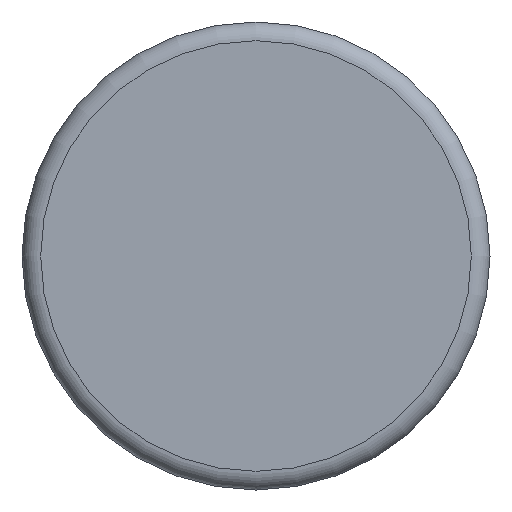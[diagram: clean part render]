
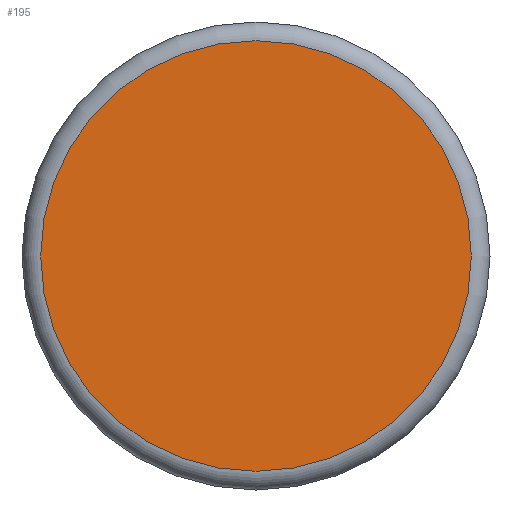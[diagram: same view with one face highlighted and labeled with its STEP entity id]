
A CAD part, front view. The second image highlights one B-rep face of the part: STEP entity #195.
In plain terms, the highlighted planar face has unit normal (0, -1, 0).
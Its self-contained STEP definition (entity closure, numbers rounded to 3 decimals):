
#195 = ADVANCED_FACE( '', ( #379 ), #380, .F. );
#379 = FACE_OUTER_BOUND( '', #561, .T. );
#380 = PLANE( '', #562 );
#561 = EDGE_LOOP( '', ( #862 ) );
#562 = AXIS2_PLACEMENT_3D( '', #863, #864, #865 );
#862 = ORIENTED_EDGE( '', *, *, #1112, .T. );
#863 = CARTESIAN_POINT( '', ( 11.5, 0., 0. ) );
#864 = DIRECTION( '', ( 0., 1., 0. ) );
#865 = DIRECTION( '', ( 0., 0., 1. ) );
#1112 = EDGE_CURVE( '', #1303, #1303, #1304, .T. );
#1303 = VERTEX_POINT( '', #1716 );
#1304 = CIRCLE( '', #1717, 11.5 );
#1716 = CARTESIAN_POINT( '', ( 0., 0., -11.5 ) );
#1717 = AXIS2_PLACEMENT_3D( '', #1895, #1896, #1897 );
#1895 = CARTESIAN_POINT( '', ( 0., 0., 0. ) );
#1896 = DIRECTION( '', ( 0., -1., 0. ) );
#1897 = DIRECTION( '', ( 0., 0., -1. ) );
